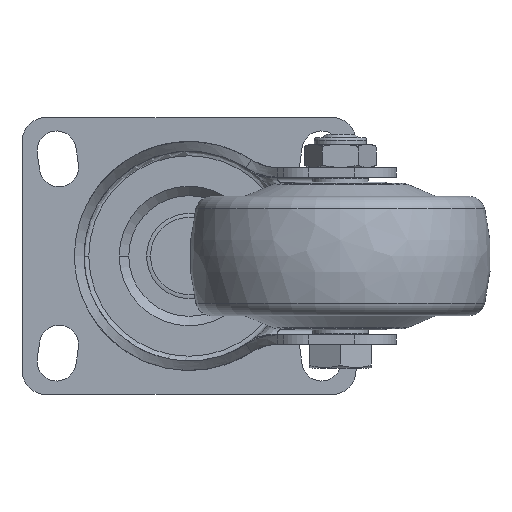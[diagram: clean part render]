
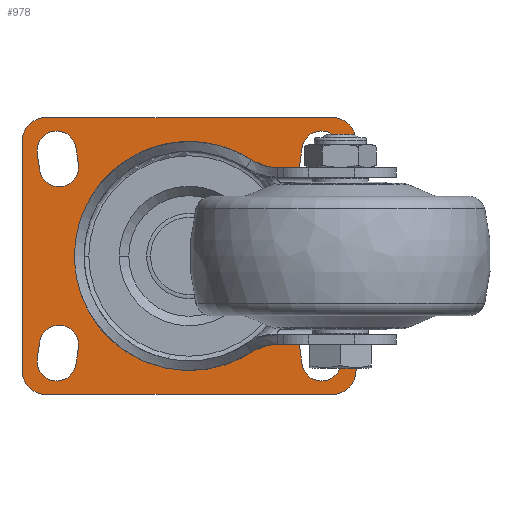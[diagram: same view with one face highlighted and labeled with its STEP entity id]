
A CAD part, front view. The second image highlights one B-rep face of the part: STEP entity #978.
In plain terms, the highlighted planar face has unit normal (0, -1, 0).
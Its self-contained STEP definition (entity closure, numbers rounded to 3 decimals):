
#227=DIRECTION('',(1.,0.,0.));
#228=VECTOR('',#227,60.);
#229=CARTESIAN_POINT('',(-30.,6.1,-29.));
#230=LINE('',#229,#228);
#231=CARTESIAN_POINT('',(-30.,6.1,-24.));
#232=DIRECTION('',(0.,1.,0.));
#233=DIRECTION('',(0.,0.,-1.));
#234=AXIS2_PLACEMENT_3D('',#231,#232,#233);
#236=DIRECTION('',(0.,0.,-1.));
#237=VECTOR('',#236,48.);
#238=CARTESIAN_POINT('',(-35.,6.1,24.));
#239=LINE('',#238,#237);
#240=CARTESIAN_POINT('',(-30.,6.1,24.));
#241=DIRECTION('',(0.,1.,0.));
#242=DIRECTION('',(-1.,0.,0.));
#243=AXIS2_PLACEMENT_3D('',#240,#241,#242);
#245=DIRECTION('',(-1.,0.,0.));
#246=VECTOR('',#245,60.);
#247=CARTESIAN_POINT('',(30.,6.1,29.));
#248=LINE('',#247,#246);
#249=CARTESIAN_POINT('',(30.,6.1,24.));
#250=DIRECTION('',(0.,1.,0.));
#251=DIRECTION('',(0.,0.,1.));
#252=AXIS2_PLACEMENT_3D('',#249,#250,#251);
#254=DIRECTION('',(0.,0.,1.));
#255=VECTOR('',#254,48.);
#256=CARTESIAN_POINT('',(35.,6.1,-24.));
#257=LINE('',#256,#255);
#258=CARTESIAN_POINT('',(30.,6.1,-24.));
#259=DIRECTION('',(0.,1.,0.));
#260=DIRECTION('',(1.,0.,0.));
#261=AXIS2_PLACEMENT_3D('',#258,#259,#260);
#263=CARTESIAN_POINT('',(-27.75,6.1,-22.1));
#264=DIRECTION('',(0.,1.,0.));
#265=DIRECTION('',(0.99,0.,-0.141));
#266=AXIS2_PLACEMENT_3D('',#263,#264,#265);
#268=DIRECTION('',(-0.141,0.,-0.99));
#269=VECTOR('',#268,3.536);
#270=CARTESIAN_POINT('',(-23.191,6.1,-19.18));
#271=LINE('',#270,#269);
#272=CARTESIAN_POINT('',(-27.25,6.1,-18.6));
#273=DIRECTION('',(0.,1.,0.));
#274=DIRECTION('',(-0.99,0.,0.141));
#275=AXIS2_PLACEMENT_3D('',#272,#273,#274);
#277=DIRECTION('',(0.141,0.,0.99));
#278=VECTOR('',#277,3.536);
#279=CARTESIAN_POINT('',(-31.809,6.1,-21.52));
#280=LINE('',#279,#278);
#281=CARTESIAN_POINT('',(-27.25,6.1,18.6));
#282=DIRECTION('',(0.,1.,0.));
#283=DIRECTION('',(0.99,0.,0.141));
#284=AXIS2_PLACEMENT_3D('',#281,#282,#283);
#286=DIRECTION('',(0.141,0.,-0.99));
#287=VECTOR('',#286,3.536);
#288=CARTESIAN_POINT('',(-23.691,6.1,22.68));
#289=LINE('',#288,#287);
#290=CARTESIAN_POINT('',(-27.75,6.1,22.1));
#291=DIRECTION('',(0.,1.,0.));
#292=DIRECTION('',(-0.99,0.,-0.141));
#293=AXIS2_PLACEMENT_3D('',#290,#291,#292);
#295=DIRECTION('',(-0.141,0.,0.99));
#296=VECTOR('',#295,3.536);
#297=CARTESIAN_POINT('',(-31.309,6.1,18.02));
#298=LINE('',#297,#296);
#299=CARTESIAN_POINT('',(27.75,6.1,22.1));
#300=DIRECTION('',(0.,1.,0.));
#301=DIRECTION('',(-0.99,0.,0.141));
#302=AXIS2_PLACEMENT_3D('',#299,#300,#301);
#304=DIRECTION('',(0.141,0.,0.99));
#305=VECTOR('',#304,3.536);
#306=CARTESIAN_POINT('',(23.191,6.1,19.18));
#307=LINE('',#306,#305);
#308=CARTESIAN_POINT('',(27.25,6.1,18.6));
#309=DIRECTION('',(0.,1.,0.));
#310=DIRECTION('',(0.99,0.,-0.141));
#311=AXIS2_PLACEMENT_3D('',#308,#309,#310);
#313=DIRECTION('',(-0.141,0.,-0.99));
#314=VECTOR('',#313,3.536);
#315=CARTESIAN_POINT('',(31.809,6.1,21.52));
#316=LINE('',#315,#314);
#317=CARTESIAN_POINT('',(27.25,6.1,-18.6));
#318=DIRECTION('',(0.,1.,0.));
#319=DIRECTION('',(-0.99,0.,-0.141));
#320=AXIS2_PLACEMENT_3D('',#317,#318,#319);
#322=DIRECTION('',(-0.141,0.,0.99));
#323=VECTOR('',#322,3.536);
#324=CARTESIAN_POINT('',(23.691,6.1,-22.68));
#325=LINE('',#324,#323);
#326=CARTESIAN_POINT('',(27.75,6.1,-22.1));
#327=DIRECTION('',(0.,1.,0.));
#328=DIRECTION('',(0.99,0.,0.141));
#329=AXIS2_PLACEMENT_3D('',#326,#327,#328);
#331=DIRECTION('',(0.141,0.,-0.99));
#332=VECTOR('',#331,3.536);
#333=CARTESIAN_POINT('',(31.309,6.1,-18.02));
#334=LINE('',#333,#332);
#335=CARTESIAN_POINT('',(0.,6.1,0.));
#336=DIRECTION('',(0.,-1.,0.));
#337=DIRECTION('',(1.,0.,0.));
#338=AXIS2_PLACEMENT_3D('',#335,#336,#337);
#340=CARTESIAN_POINT('',(0.,6.1,0.));
#341=DIRECTION('',(0.,-1.,0.));
#342=DIRECTION('',(-1.,0.,0.));
#343=AXIS2_PLACEMENT_3D('',#340,#341,#342);
#541=CARTESIAN_POINT('',(-30.,6.1,-29.));
#542=CARTESIAN_POINT('',(30.,6.1,-29.));
#543=VERTEX_POINT('',#541);
#544=VERTEX_POINT('',#542);
#545=CARTESIAN_POINT('',(35.,6.1,-24.));
#546=CARTESIAN_POINT('',(35.,6.1,24.));
#547=VERTEX_POINT('',#545);
#548=VERTEX_POINT('',#546);
#549=CARTESIAN_POINT('',(30.,6.1,29.));
#550=CARTESIAN_POINT('',(-30.,6.1,29.));
#551=VERTEX_POINT('',#549);
#552=VERTEX_POINT('',#550);
#553=CARTESIAN_POINT('',(-35.,6.1,24.));
#554=CARTESIAN_POINT('',(-35.,6.1,-24.));
#555=VERTEX_POINT('',#553);
#556=VERTEX_POINT('',#554);
#557=CARTESIAN_POINT('',(-23.691,6.1,-22.68));
#558=CARTESIAN_POINT('',(-31.809,6.1,-21.52));
#559=VERTEX_POINT('',#557);
#560=VERTEX_POINT('',#558);
#561=CARTESIAN_POINT('',(-31.309,6.1,-18.02));
#562=VERTEX_POINT('',#561);
#563=CARTESIAN_POINT('',(-23.191,6.1,-19.18));
#564=VERTEX_POINT('',#563);
#565=CARTESIAN_POINT('',(-23.191,6.1,19.18));
#566=CARTESIAN_POINT('',(-31.309,6.1,18.02));
#567=VERTEX_POINT('',#565);
#568=VERTEX_POINT('',#566);
#569=CARTESIAN_POINT('',(-31.809,6.1,21.52));
#570=VERTEX_POINT('',#569);
#571=CARTESIAN_POINT('',(-23.691,6.1,22.68));
#572=VERTEX_POINT('',#571);
#573=CARTESIAN_POINT('',(23.691,6.1,22.68));
#574=CARTESIAN_POINT('',(31.809,6.1,21.52));
#575=VERTEX_POINT('',#573);
#576=VERTEX_POINT('',#574);
#577=CARTESIAN_POINT('',(31.309,6.1,18.02));
#578=VERTEX_POINT('',#577);
#579=CARTESIAN_POINT('',(23.191,6.1,19.18));
#580=VERTEX_POINT('',#579);
#581=CARTESIAN_POINT('',(23.191,6.1,-19.18));
#582=CARTESIAN_POINT('',(31.309,6.1,-18.02));
#583=VERTEX_POINT('',#581);
#584=VERTEX_POINT('',#582);
#585=CARTESIAN_POINT('',(31.809,6.1,-21.52));
#586=VERTEX_POINT('',#585);
#587=CARTESIAN_POINT('',(23.691,6.1,-22.68));
#588=VERTEX_POINT('',#587);
#609=CARTESIAN_POINT('',(16.105,6.1,0.));
#610=CARTESIAN_POINT('',(-16.105,6.1,0.));
#611=VERTEX_POINT('',#609);
#612=VERTEX_POINT('',#610);
#917=CARTESIAN_POINT('',(0.,6.1,0.));
#918=DIRECTION('',(0.,-1.,0.));
#919=DIRECTION('',(-1.,0.,0.));
#920=AXIS2_PLACEMENT_3D('',#917,#918,#919);
#921=PLANE('',#920);
#922=ORIENTED_EDGE('',*,*,#813,.F.);
#923=ORIENTED_EDGE('',*,*,#828,.T.);
#924=ORIENTED_EDGE('',*,*,#842,.F.);
#925=ORIENTED_EDGE('',*,*,#856,.T.);
#926=ORIENTED_EDGE('',*,*,#870,.F.);
#927=ORIENTED_EDGE('',*,*,#884,.T.);
#928=ORIENTED_EDGE('',*,*,#898,.F.);
#929=ORIENTED_EDGE('',*,*,#911,.T.);
#930=EDGE_LOOP('',(#922,#923,#924,#925,#926,#927,#928,#929));
#931=FACE_OUTER_BOUND('',#930,.F.);
#933=ORIENTED_EDGE('',*,*,#932,.F.);
#935=ORIENTED_EDGE('',*,*,#934,.F.);
#937=ORIENTED_EDGE('',*,*,#936,.F.);
#939=ORIENTED_EDGE('',*,*,#938,.F.);
#940=EDGE_LOOP('',(#933,#935,#937,#939));
#941=FACE_BOUND('',#940,.F.);
#943=ORIENTED_EDGE('',*,*,#942,.F.);
#945=ORIENTED_EDGE('',*,*,#944,.F.);
#947=ORIENTED_EDGE('',*,*,#946,.F.);
#949=ORIENTED_EDGE('',*,*,#948,.F.);
#950=EDGE_LOOP('',(#943,#945,#947,#949));
#951=FACE_BOUND('',#950,.F.);
#953=ORIENTED_EDGE('',*,*,#952,.F.);
#955=ORIENTED_EDGE('',*,*,#954,.F.);
#957=ORIENTED_EDGE('',*,*,#956,.F.);
#959=ORIENTED_EDGE('',*,*,#958,.F.);
#960=EDGE_LOOP('',(#953,#955,#957,#959));
#961=FACE_BOUND('',#960,.F.);
#963=ORIENTED_EDGE('',*,*,#962,.F.);
#965=ORIENTED_EDGE('',*,*,#964,.F.);
#967=ORIENTED_EDGE('',*,*,#966,.F.);
#969=ORIENTED_EDGE('',*,*,#968,.F.);
#970=EDGE_LOOP('',(#963,#965,#967,#969));
#971=FACE_BOUND('',#970,.F.);
#973=ORIENTED_EDGE('',*,*,#972,.T.);
#975=ORIENTED_EDGE('',*,*,#974,.T.);
#976=EDGE_LOOP('',(#973,#975));
#977=FACE_BOUND('',#976,.F.);
#235=CIRCLE('',#234,5.);
#244=CIRCLE('',#243,5.);
#253=CIRCLE('',#252,5.);
#262=CIRCLE('',#261,5.);
#267=CIRCLE('',#266,4.1);
#276=CIRCLE('',#275,4.1);
#285=CIRCLE('',#284,4.1);
#294=CIRCLE('',#293,4.1);
#303=CIRCLE('',#302,4.1);
#312=CIRCLE('',#311,4.1);
#321=CIRCLE('',#320,4.1);
#330=CIRCLE('',#329,4.1);
#339=CIRCLE('',#338,16.105);
#344=CIRCLE('',#343,16.105);
#813=EDGE_CURVE('',#543,#544,#230,.T.);
#828=EDGE_CURVE('',#543,#556,#235,.T.);
#842=EDGE_CURVE('',#555,#556,#239,.T.);
#856=EDGE_CURVE('',#555,#552,#244,.T.);
#870=EDGE_CURVE('',#551,#552,#248,.T.);
#884=EDGE_CURVE('',#551,#548,#253,.T.);
#898=EDGE_CURVE('',#547,#548,#257,.T.);
#911=EDGE_CURVE('',#547,#544,#262,.T.);
#932=EDGE_CURVE('',#559,#560,#267,.T.);
#934=EDGE_CURVE('',#564,#559,#271,.T.);
#936=EDGE_CURVE('',#562,#564,#276,.T.);
#938=EDGE_CURVE('',#560,#562,#280,.T.);
#942=EDGE_CURVE('',#567,#568,#285,.T.);
#944=EDGE_CURVE('',#572,#567,#289,.T.);
#946=EDGE_CURVE('',#570,#572,#294,.T.);
#948=EDGE_CURVE('',#568,#570,#298,.T.);
#952=EDGE_CURVE('',#575,#576,#303,.T.);
#954=EDGE_CURVE('',#580,#575,#307,.T.);
#956=EDGE_CURVE('',#578,#580,#312,.T.);
#958=EDGE_CURVE('',#576,#578,#316,.T.);
#962=EDGE_CURVE('',#583,#584,#321,.T.);
#964=EDGE_CURVE('',#588,#583,#325,.T.);
#966=EDGE_CURVE('',#586,#588,#330,.T.);
#968=EDGE_CURVE('',#584,#586,#334,.T.);
#972=EDGE_CURVE('',#611,#612,#339,.T.);
#974=EDGE_CURVE('',#612,#611,#344,.T.);
#978=ADVANCED_FACE('',(#931,#941,#951,#961,#971,#977),#921,.T.);
